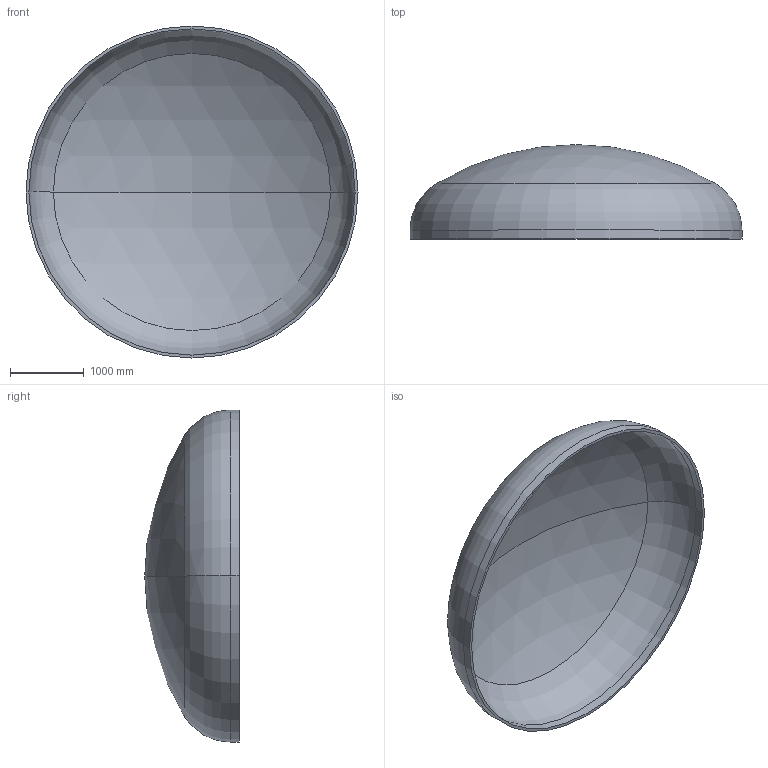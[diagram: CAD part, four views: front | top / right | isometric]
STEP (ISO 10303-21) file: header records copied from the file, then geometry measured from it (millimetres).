
FILE_DESCRIPTION (( 'STEP AP203' ), '1' );
FILE_NAME ('DIN 28013 Korbbogenform_-_Boden DIN 28013 - 4500 x 120 - I - s=39.step', '2016-07-01T23:23:28', ( '' ), ( '' ), 'SwSTEP 2.0', 'SolidWorks 2013', '' );
FILE_SCHEMA (( 'CONFIG_CONTROL_DESIGN' ));
Length unit declared in the file: millimetre
Products named in the file (1): DIN 28013 Korbbogenform_-_Boden DIN 28013 - 4500 x 120 - I - s=39
Bounding box: 4500 x 1280.94 x 4500 mm (x, y, z)
Volume: 915344164.3 mm3; surface area: 47490465.5 mm2
Topology: 1 solids, 1 shells, 13 faces, 24 edges, 14 vertices
Faces by surface type: torus 4, cylinder 4, sphere 4, plane 1
Entity records: 407 total; most frequent: DIRECTION 72, CARTESIAN_POINT 52, ORIENTED_EDGE 48, AXIS2_PLACEMENT_3D 34, EDGE_CURVE 24, CIRCLE 20, EDGE_LOOP 14, VERTEX_POINT 14
